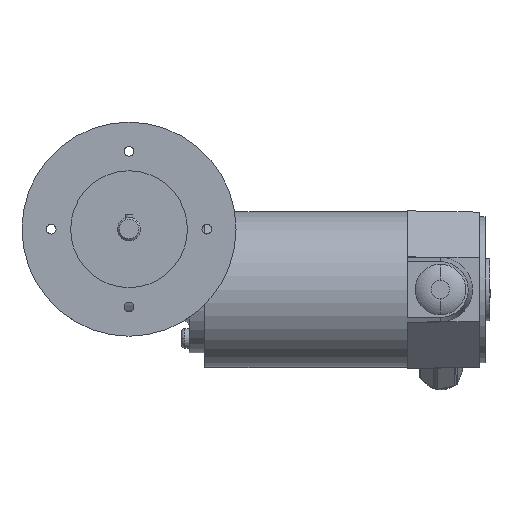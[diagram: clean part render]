
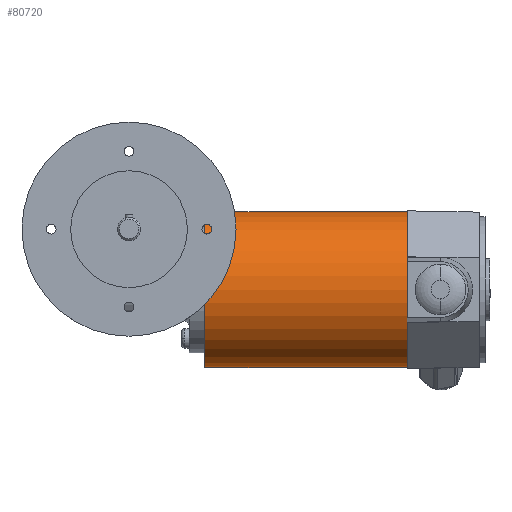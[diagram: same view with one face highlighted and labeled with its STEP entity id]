
A CAD part, top view. The second image highlights one B-rep face of the part: STEP entity #80720.
In plain terms, the highlighted cylindrical face has radius 40 mm (diameter 80 mm), a partial arc.
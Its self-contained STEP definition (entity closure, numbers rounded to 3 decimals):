
#9290=CARTESIAN_POINT('',(-51.325,455.,
-0.185));
#9300=DIRECTION('',(-0.026,0.,
1.));
#9310=DIRECTION('',(1.,0.,
0.026));
#9320=AXIS2_PLACEMENT_3D('',#9290,#9300,#9310);
#9330=CIRCLE('',#9320,40.);
#9340=CARTESIAN_POINT('',(-11.339,455.,
0.862));
#9350=VERTEX_POINT('',#9340);
#9360=CARTESIAN_POINT('',(-91.312,455.,
-1.232));
#9370=VERTEX_POINT('',#9360);
#9380=EDGE_CURVE('',#9350,#9370,#9330,.T.);
#30670=CARTESIAN_POINT('',(-48.603,455.,
-104.15));
#30680=DIRECTION('',(-0.026,0.,
1.));
#30690=DIRECTION('',(1.,0.,
0.026));
#30700=AXIS2_PLACEMENT_3D('',#30670,#30680,#30690);
#30710=CIRCLE('',#30700,40.);
#30720=CARTESIAN_POINT('',(-8.617,455.,
-103.102));
#30730=VERTEX_POINT('',#30720);
#30740=CARTESIAN_POINT('',(-88.589,455.,
-105.197));
#30750=VERTEX_POINT('',#30740);
#30760=EDGE_CURVE('',#30730,#30750,#30710,.T.);
#32500=CARTESIAN_POINT('',(-48.603,455.,
-104.15));
#32510=DIRECTION('',(-0.026,0.,
1.));
#32520=DIRECTION('',(1.,0.,
0.026));
#32530=AXIS2_PLACEMENT_3D('',#32500,#32510,#32520);
#32540=CYLINDRICAL_SURFACE('',#32530,40.);
#32550=CARTESIAN_POINT('',(-8.617,455.,
-103.102));
#32560=DIRECTION('',(-0.026,0.,
1.));
#32570=VECTOR('',#32560,1.);
#32580=LINE('',#32550,#32570);
#32590=EDGE_CURVE('',#30730,#9350,#32580,.T.);
#32620=CARTESIAN_POINT('',(-88.589,455.,
-105.197));
#32630=DIRECTION('',(-0.026,0.,
1.));
#32640=VECTOR('',#32630,1.);
#32650=LINE('',#32620,#32640);
#32660=EDGE_CURVE('',#30750,#9370,#32650,.T.);
#80660=ORIENTED_EDGE('',*,*,#9380,.F.);
#80670=ORIENTED_EDGE('',*,*,#32660,.T.);
#80680=ORIENTED_EDGE('',*,*,#30760,.T.);
#80690=ORIENTED_EDGE('',*,*,#32590,.F.);
#80700=EDGE_LOOP('',(#80690,#80680,#80670,#80660));
#80710=FACE_OUTER_BOUND('',#80700,.T.);
#80720=ADVANCED_FACE('',(#80710),#32540,.T.);
